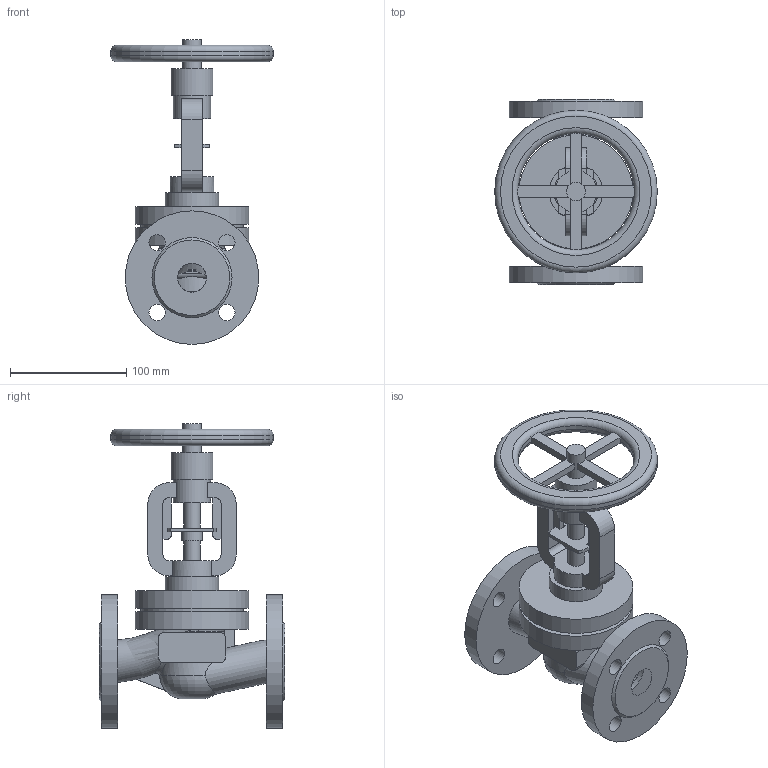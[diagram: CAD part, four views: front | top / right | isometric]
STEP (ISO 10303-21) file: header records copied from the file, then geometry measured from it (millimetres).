
FILE_DESCRIPTION(('STEP AP203'), '1');
FILE_NAME('Êëàïàí çàïîðíî-ðåãóëèðóþùèé BV2F DN25', '2026-09-22T07:51:16', ('Ýíåðãèÿ'), (''), 'ASCON STEP Converter 1.6', 'ASCON Math Kernel', '');
FILE_SCHEMA(('CONFIG_CONTROL_DESIGN'));
Length unit declared in the file: millimetre
Bounding box: 140 x 160 x 262.5 mm (x, y, z)
Surface area: 160183.2 mm2 (no closed solid volume)
Topology: 0 solids, 1 shells, 193 faces, 523 edges, 345 vertices
Faces by surface type: plane 104, cylinder 70, bspline 11, torus 6, cone 2
Full cylindrical faces by diameter (mm): 14 x10, 16 x1, 18 x1, 25 x1, 32 x1, 36 x1, 38 x1, 46 x1, 88 x1, 98 x2, 115 x2, 140 x1
Entity records: 19993 total; most frequent: CARTESIAN_POINT 13720, ORIENTED_EDGE 968, DIRECTION 910, EDGE_CURVE 485, AXIS2_PLACEMENT_3D 350, VERTEX_POINT 345, EDGE_LOOP 273, FACE_BOUND 217
